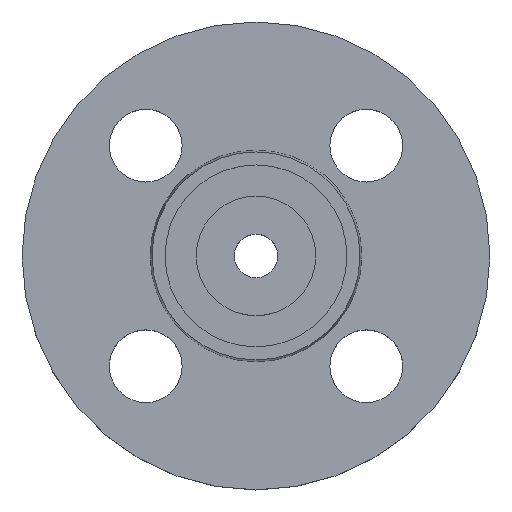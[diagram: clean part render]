
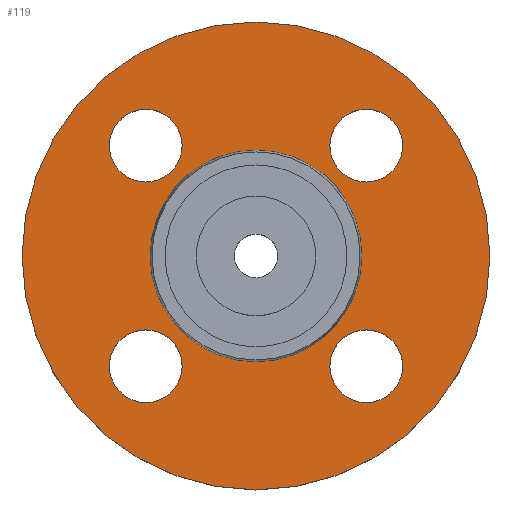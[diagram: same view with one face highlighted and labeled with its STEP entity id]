
A CAD part, top view. The second image highlights one B-rep face of the part: STEP entity #119.
In plain terms, the highlighted planar face has unit normal (0, 0, 1).
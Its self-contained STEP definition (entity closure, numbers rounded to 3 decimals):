
#4 = CARTESIAN_POINT ( 'NONE',  ( 14.213, -21.213, -2. ) ) ;
#18 = AXIS2_PLACEMENT_3D ( 'NONE', #799, #800, #803 ) ;
#22 = EDGE_CURVE ( 'NONE', #745, #539, #181, .T. ) ;
#31 = CIRCLE ( 'NONE', #362, 20.353 ) ;
#34 = CARTESIAN_POINT ( 'NONE',  ( 28.213, 21.213, -2. ) ) ;
#55 = CARTESIAN_POINT ( 'NONE',  ( 28.213, -21.213, -2. ) ) ;
#62 = CARTESIAN_POINT ( 'NONE',  ( -45., 0., -2. ) ) ;
#84 = DIRECTION ( 'NONE',  ( 1., 0., 0. ) ) ;
#86 = DIRECTION ( 'NONE',  ( 0., 0., -1. ) ) ;
#87 = CARTESIAN_POINT ( 'NONE',  ( 21.213, 21.213, -2. ) ) ;
#88 = DIRECTION ( 'NONE',  ( 1., 0., 0. ) ) ;
#92 = EDGE_CURVE ( 'NONE', #764, #747, #177, .T. ) ;
#95 = CARTESIAN_POINT ( 'NONE',  ( 21.213, 21.213, -2. ) ) ;
#96 = DIRECTION ( 'NONE',  ( 0., 0., -1. ) ) ;
#112 = DIRECTION ( 'NONE',  ( 0., 0., -1. ) ) ;
#115 = CARTESIAN_POINT ( 'NONE',  ( -21.213, 21.213, -2. ) ) ;
#119 = ADVANCED_FACE ( 'NONE', ( #812, #813, #814, #815, #817, #819 ), #820, .T. ) ;
#159 = CIRCLE ( 'NONE', #640, 7. ) ;
#168 = CIRCLE ( 'NONE', #265, 7. ) ;
#174 = CIRCLE ( 'NONE', #322, 7. ) ;
#177 = CIRCLE ( 'NONE', #18, 7. ) ;
#181 = CIRCLE ( 'NONE', #238, 7. ) ;
#195 = CARTESIAN_POINT ( 'NONE',  ( 14.213, 21.213, -2. ) ) ;
#196 = AXIS2_PLACEMENT_3D ( 'NONE', #735, #203, #412 ) ;
#203 = DIRECTION ( 'NONE',  ( 0., 0., -1. ) ) ;
#211 = EDGE_CURVE ( 'NONE', #746, #622, #31, .T. ) ;
#215 = DIRECTION ( 'NONE',  ( 1., 0., 0. ) ) ;
#219 = CIRCLE ( 'NONE', #227, 45. ) ;
#227 = AXIS2_PLACEMENT_3D ( 'NONE', #878, #879, #880 ) ;
#232 = EDGE_CURVE ( 'NONE', #622, #746, #403, .T. ) ;
#236 = EDGE_CURVE ( 'NONE', #713, #522, #219, .T. ) ;
#238 = AXIS2_PLACEMENT_3D ( 'NONE', #782, #783, #784 ) ;
#245 = CARTESIAN_POINT ( 'NONE',  ( 21.213, -21.213, -2. ) ) ;
#246 = EDGE_CURVE ( 'NONE', #740, #733, #407, .T. ) ;
#248 = CIRCLE ( 'NONE', #196, 45. ) ;
#254 = CARTESIAN_POINT ( 'NONE',  ( -21.213, 21.213, -2. ) ) ;
#265 = AXIS2_PLACEMENT_3D ( 'NONE', #254, #476, #729 ) ;
#295 = CARTESIAN_POINT ( 'NONE',  ( -21.213, -21.213, -2. ) ) ;
#296 = DIRECTION ( 'NONE',  ( 0., 0., -1. ) ) ;
#297 = DIRECTION ( 'NONE',  ( 1., 0., 0. ) ) ;
#308 = EDGE_CURVE ( 'NONE', #747, #764, #174, .T. ) ;
#319 = CIRCLE ( 'NONE', #320, 7. ) ;
#320 = AXIS2_PLACEMENT_3D ( 'NONE', #87, #86, #84 ) ;
#322 = AXIS2_PLACEMENT_3D ( 'NONE', #295, #296, #297 ) ;
#323 = CIRCLE ( 'NONE', #870, 7. ) ;
#334 = CARTESIAN_POINT ( 'NONE',  ( -14.213, -21.213, -2. ) ) ;
#349 = CARTESIAN_POINT ( 'NONE',  ( -20.353, 0., -2. ) ) ;
#362 = AXIS2_PLACEMENT_3D ( 'NONE', #852, #853, #855 ) ;
#382 = AXIS2_PLACEMENT_3D ( 'NONE', #115, #112, #215 ) ;
#403 = CIRCLE ( 'NONE', #405, 20.353 ) ;
#405 = AXIS2_PLACEMENT_3D ( 'NONE', #872, #873, #874 ) ;
#407 = CIRCLE ( 'NONE', #382, 7. ) ;
#412 = DIRECTION ( 'NONE',  ( -1., 0., 0. ) ) ;
#465 = DIRECTION ( 'NONE',  ( 1., 0., 0. ) ) ;
#476 = DIRECTION ( 'NONE',  ( 0., 0., -1. ) ) ;
#484 = EDGE_CURVE ( 'NONE', #584, #602, #159, .T. ) ;
#485 = CARTESIAN_POINT ( 'NONE',  ( -28.213, -21.213, -2. ) ) ;
#487 = EDGE_CURVE ( 'NONE', #602, #584, #319, .T. ) ;
#511 = CARTESIAN_POINT ( 'NONE',  ( 20.353, 0., -2. ) ) ;
#522 = VERTEX_POINT ( 'NONE', #62 ) ;
#539 = VERTEX_POINT ( 'NONE', #55 ) ;
#550 = EDGE_LOOP ( 'NONE', ( #628, #629 ) ) ;
#551 = EDGE_LOOP ( 'NONE', ( #624, #625 ) ) ;
#584 = VERTEX_POINT ( 'NONE', #34 ) ;
#602 = VERTEX_POINT ( 'NONE', #195 ) ;
#614 = ORIENTED_EDGE ( 'NONE', *, *, #822, .T. ) ;
#616 = ORIENTED_EDGE ( 'NONE', *, *, #22, .T. ) ;
#617 = ORIENTED_EDGE ( 'NONE', *, *, #92, .T. ) ;
#618 = ORIENTED_EDGE ( 'NONE', *, *, #308, .T. ) ;
#619 = ORIENTED_EDGE ( 'NONE', *, *, #715, .T. ) ;
#620 = ORIENTED_EDGE ( 'NONE', *, *, #246, .T. ) ;
#622 = VERTEX_POINT ( 'NONE', #349 ) ;
#624 = ORIENTED_EDGE ( 'NONE', *, *, #484, .T. ) ;
#625 = ORIENTED_EDGE ( 'NONE', *, *, #487, .T. ) ;
#626 = ORIENTED_EDGE ( 'NONE', *, *, #232, .T. ) ;
#627 = ORIENTED_EDGE ( 'NONE', *, *, #211, .T. ) ;
#628 = ORIENTED_EDGE ( 'NONE', *, *, #236, .F. ) ;
#629 = ORIENTED_EDGE ( 'NONE', *, *, #823, .F. ) ;
#639 = CARTESIAN_POINT ( 'NONE',  ( -14.213, 21.213, -2. ) ) ;
#640 = AXIS2_PLACEMENT_3D ( 'NONE', #95, #96, #88 ) ;
#652 = AXIS2_PLACEMENT_3D ( 'NONE', #821, #824, #825 ) ;
#665 = CARTESIAN_POINT ( 'NONE',  ( -28.213, 21.213, -2. ) ) ;
#713 = VERTEX_POINT ( 'NONE', #760 ) ;
#715 = EDGE_CURVE ( 'NONE', #733, #740, #168, .T. ) ;
#723 = EDGE_LOOP ( 'NONE', ( #626, #627 ) ) ;
#729 = DIRECTION ( 'NONE',  ( 1., 0., 0. ) ) ;
#733 = VERTEX_POINT ( 'NONE', #639 ) ;
#735 = CARTESIAN_POINT ( 'NONE',  ( 0., 0., -2. ) ) ;
#740 = VERTEX_POINT ( 'NONE', #665 ) ;
#745 = VERTEX_POINT ( 'NONE', #4 ) ;
#746 = VERTEX_POINT ( 'NONE', #511 ) ;
#747 = VERTEX_POINT ( 'NONE', #485 ) ;
#755 = EDGE_LOOP ( 'NONE', ( #617, #618 ) ) ;
#756 = EDGE_LOOP ( 'NONE', ( #619, #620 ) ) ;
#760 = CARTESIAN_POINT ( 'NONE',  ( 45., 0., -2. ) ) ;
#764 = VERTEX_POINT ( 'NONE', #334 ) ;
#769 = EDGE_LOOP ( 'NONE', ( #614, #616 ) ) ;
#782 = CARTESIAN_POINT ( 'NONE',  ( 21.213, -21.213, -2. ) ) ;
#783 = DIRECTION ( 'NONE',  ( 0., 0., -1. ) ) ;
#784 = DIRECTION ( 'NONE',  ( 1., 0., 0. ) ) ;
#799 = CARTESIAN_POINT ( 'NONE',  ( -21.213, -21.213, -2. ) ) ;
#800 = DIRECTION ( 'NONE',  ( 0., 0., -1. ) ) ;
#803 = DIRECTION ( 'NONE',  ( 1., 0., 0. ) ) ;
#812 = FACE_BOUND ( 'NONE', #769, .T. ) ;
#813 = FACE_BOUND ( 'NONE', #755, .T. ) ;
#814 = FACE_BOUND ( 'NONE', #756, .T. ) ;
#815 = FACE_BOUND ( 'NONE', #551, .T. ) ;
#817 = FACE_BOUND ( 'NONE', #723, .T. ) ;
#818 = DIRECTION ( 'NONE',  ( 0., 0., -1. ) ) ;
#819 = FACE_OUTER_BOUND ( 'NONE', #550, .T. ) ;
#820 = PLANE ( 'NONE',  #652 ) ;
#821 = CARTESIAN_POINT ( 'NONE',  ( 20.353, 0., -2. ) ) ;
#822 = EDGE_CURVE ( 'NONE', #539, #745, #323, .T. ) ;
#823 = EDGE_CURVE ( 'NONE', #522, #713, #248, .T. ) ;
#824 = DIRECTION ( 'NONE',  ( 0., 0., 1. ) ) ;
#825 = DIRECTION ( 'NONE',  ( 1., 0., 0. ) ) ;
#852 = CARTESIAN_POINT ( 'NONE',  ( 0., 0., -2. ) ) ;
#853 = DIRECTION ( 'NONE',  ( 0., 0., -1. ) ) ;
#855 = DIRECTION ( 'NONE',  ( -1., 0., 0. ) ) ;
#870 = AXIS2_PLACEMENT_3D ( 'NONE', #245, #818, #465 ) ;
#872 = CARTESIAN_POINT ( 'NONE',  ( 0., 0., -2. ) ) ;
#873 = DIRECTION ( 'NONE',  ( 0., 0., -1. ) ) ;
#874 = DIRECTION ( 'NONE',  ( -1., 0., 0. ) ) ;
#878 = CARTESIAN_POINT ( 'NONE',  ( 0., 0., -2. ) ) ;
#879 = DIRECTION ( 'NONE',  ( 0., 0., -1. ) ) ;
#880 = DIRECTION ( 'NONE',  ( -1., 0., 0. ) ) ;
